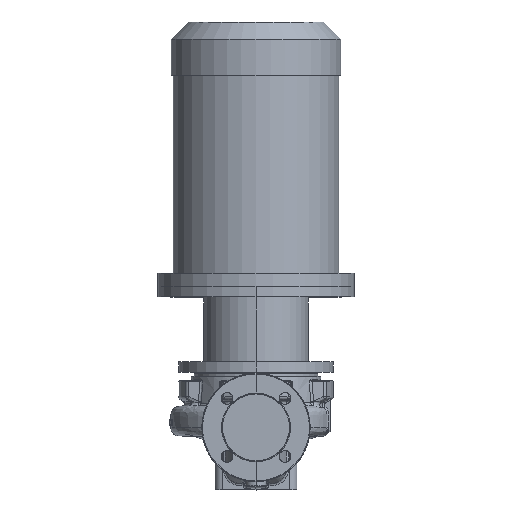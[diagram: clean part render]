
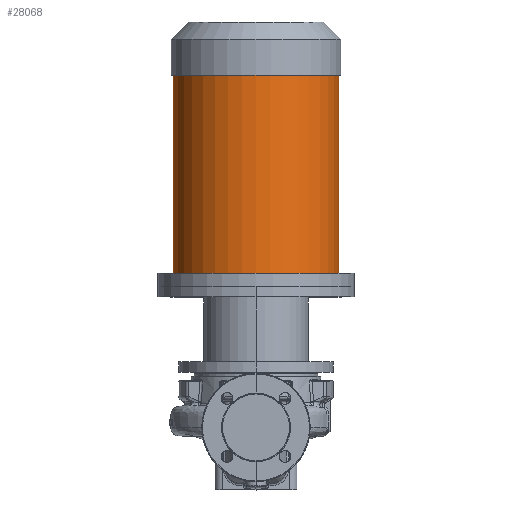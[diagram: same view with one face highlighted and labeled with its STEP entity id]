
A CAD part, top view. The second image highlights one B-rep face of the part: STEP entity #28068.
In plain terms, the highlighted cylindrical face has radius 126.5 mm (diameter 253 mm), a partial arc.
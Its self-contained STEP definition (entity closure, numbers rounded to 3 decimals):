
#285 = CARTESIAN_POINT ( 'NONE',  ( -126.5, 235.3, 0. ) ) ;
#1678 = DIRECTION ( 'NONE',  ( 0., -1., 0. ) ) ;
#1699 = CARTESIAN_POINT ( 'NONE',  ( 0., 235.3, 0. ) ) ;
#2166 = FACE_OUTER_BOUND ( 'NONE', #71622, .T. ) ;
#3186 = VECTOR ( 'NONE', #1678, 1000. ) ;
#5189 = VECTOR ( 'NONE', #23811, 1000. ) ;
#11847 = EDGE_CURVE ( 'NONE', #73300, #49692, #52689, .T. ) ;
#16845 = CARTESIAN_POINT ( 'NONE',  ( 0., 215.3, 0. ) ) ;
#20936 = ORIENTED_EDGE ( 'NONE', *, *, #23698, .T. ) ;
#23698 = EDGE_CURVE ( 'NONE', #71092, #73300, #70261, .T. ) ;
#23811 = DIRECTION ( 'NONE',  ( 0., -1., 0. ) ) ;
#24549 = CYLINDRICAL_SURFACE ( 'NONE', #59509, 126.5 ) ;
#28068 = ADVANCED_FACE ( 'NONE', ( #2166 ), #24549, .T. ) ;
#28196 = DIRECTION ( 'NONE',  ( -1., 0., 0. ) ) ;
#29476 = CARTESIAN_POINT ( 'NONE',  ( 126.5, 215.3, 0. ) ) ;
#31310 = ORIENTED_EDGE ( 'NONE', *, *, #52673, .F. ) ;
#31322 = AXIS2_PLACEMENT_3D ( 'NONE', #1699, #64076, #51039 ) ;
#33270 = AXIS2_PLACEMENT_3D ( 'NONE', #70548, #51818, #64863 ) ;
#36531 = CARTESIAN_POINT ( 'NONE',  ( 126.5, 235.3, 0. ) ) ;
#39925 = CARTESIAN_POINT ( 'NONE',  ( -126.5, 537.3, 0. ) ) ;
#45638 = ORIENTED_EDGE ( 'NONE', *, *, #66018, .F. ) ;
#48020 = DIRECTION ( 'NONE',  ( 0., -1., 0. ) ) ;
#48553 = CARTESIAN_POINT ( 'NONE',  ( 126.5, 537.3, 0. ) ) ;
#49692 = VERTEX_POINT ( 'NONE', #285 ) ;
#51039 = DIRECTION ( 'NONE',  ( -1., 0., 0. ) ) ;
#51818 = DIRECTION ( 'NONE',  ( 0., -1., 0. ) ) ;
#52673 = EDGE_CURVE ( 'NONE', #71092, #69461, #74040, .T. ) ;
#52689 = LINE ( 'NONE', #77330, #3186 ) ;
#59509 = AXIS2_PLACEMENT_3D ( 'NONE', #16845, #48020, #28196 ) ;
#60162 = CIRCLE ( 'NONE', #31322, 126.5 ) ;
#64076 = DIRECTION ( 'NONE',  ( 0., -1., 0. ) ) ;
#64863 = DIRECTION ( 'NONE',  ( -1., 0., 0. ) ) ;
#66018 = EDGE_CURVE ( 'NONE', #69461, #49692, #60162, .T. ) ;
#69461 = VERTEX_POINT ( 'NONE', #36531 ) ;
#70261 = CIRCLE ( 'NONE', #33270, 126.5 ) ;
#70548 = CARTESIAN_POINT ( 'NONE',  ( 0., 537.3, 0. ) ) ;
#70969 = ORIENTED_EDGE ( 'NONE', *, *, #11847, .T. ) ;
#71092 = VERTEX_POINT ( 'NONE', #48553 ) ;
#71622 = EDGE_LOOP ( 'NONE', ( #31310, #20936, #70969, #45638 ) ) ;
#73300 = VERTEX_POINT ( 'NONE', #39925 ) ;
#74040 = LINE ( 'NONE', #29476, #5189 ) ;
#77330 = CARTESIAN_POINT ( 'NONE',  ( -126.5, 215.3, 0. ) ) ;
